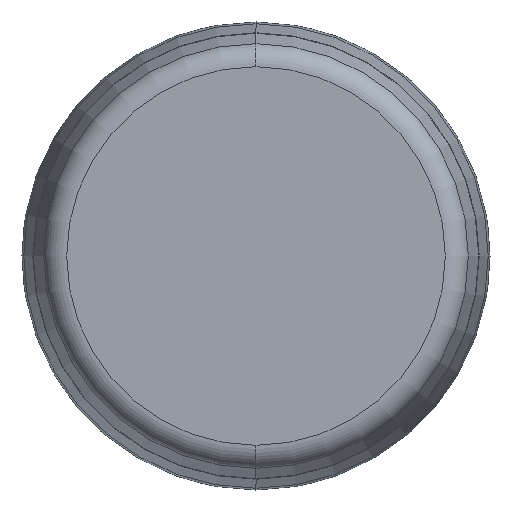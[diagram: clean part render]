
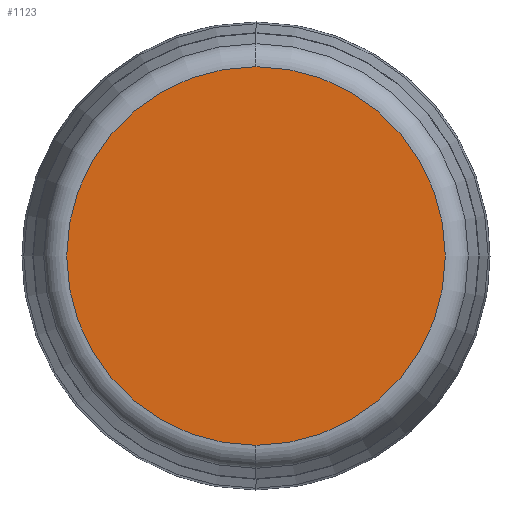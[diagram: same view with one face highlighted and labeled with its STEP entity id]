
A CAD part, left-side view. The second image highlights one B-rep face of the part: STEP entity #1123.
In plain terms, the highlighted planar face has unit normal (-1, 0, 0).
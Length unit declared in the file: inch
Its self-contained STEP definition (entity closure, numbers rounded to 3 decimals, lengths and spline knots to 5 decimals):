
#90 = DIRECTION ( 'NONE',  ( 0., 0., -1. ) ) ;
#224 = CIRCLE ( 'NONE', #682, 0.3181 ) ;
#231 = AXIS2_PLACEMENT_3D ( 'NONE', #537, #464, #90 ) ;
#313 = CIRCLE ( 'NONE', #919, 0.3181 ) ;
#326 = EDGE_CURVE ( 'NONE', #532, #724, #313, .T. ) ;
#338 = EDGE_LOOP ( 'NONE', ( #917, #745 ) ) ;
#347 = DIRECTION ( 'NONE',  ( -1., 0., 0. ) ) ;
#351 = DIRECTION ( 'NONE',  ( 0., 0., 1. ) ) ;
#391 = EDGE_CURVE ( 'NONE', #724, #532, #224, .T. ) ;
#410 = CARTESIAN_POINT ( 'NONE',  ( 0., 0., -0.3181 ) ) ;
#437 = CARTESIAN_POINT ( 'NONE',  ( 0., 0., 0. ) ) ;
#464 = DIRECTION ( 'NONE',  ( 1., 0., 0. ) ) ;
#532 = VERTEX_POINT ( 'NONE', #644 ) ;
#537 = CARTESIAN_POINT ( 'NONE',  ( 0., 0., 0. ) ) ;
#574 = FACE_OUTER_BOUND ( 'NONE', #338, .T. ) ;
#583 = DIRECTION ( 'NONE',  ( 0., 0., 1. ) ) ;
#644 = CARTESIAN_POINT ( 'NONE',  ( 0., 0., 0.3181 ) ) ;
#682 = AXIS2_PLACEMENT_3D ( 'NONE', #437, #347, #351 ) ;
#724 = VERTEX_POINT ( 'NONE', #410 ) ;
#745 = ORIENTED_EDGE ( 'NONE', *, *, #391, .T. ) ;
#858 = CARTESIAN_POINT ( 'NONE',  ( 0., 0., 0. ) ) ;
#917 = ORIENTED_EDGE ( 'NONE', *, *, #326, .T. ) ;
#919 = AXIS2_PLACEMENT_3D ( 'NONE', #858, #961, #583 ) ;
#921 = PLANE ( 'NONE',  #231 ) ;
#961 = DIRECTION ( 'NONE',  ( -1., 0., 0. ) ) ;
#1123 = ADVANCED_FACE ( 'NONE', ( #574 ), #921, .F. ) ;
